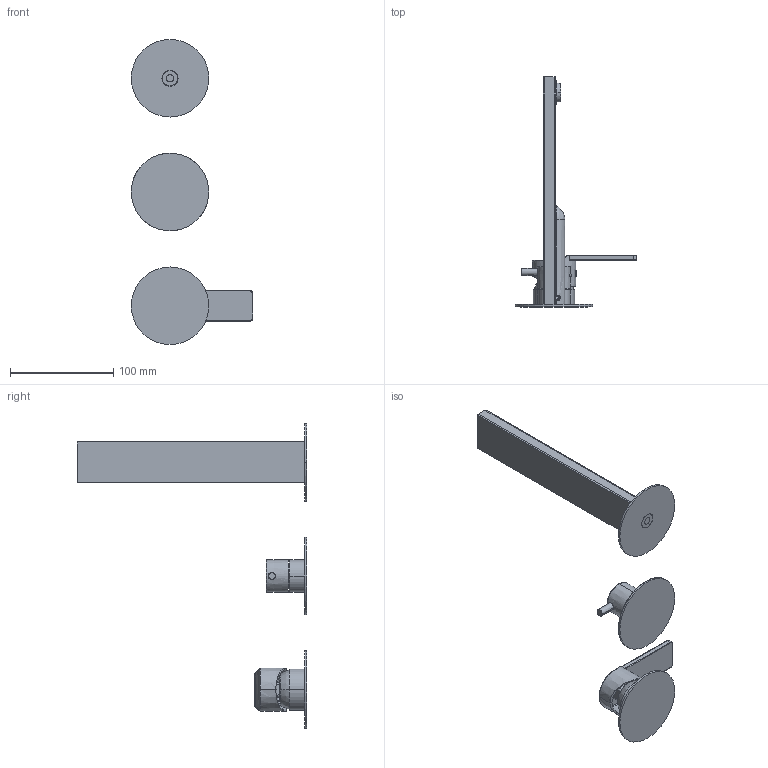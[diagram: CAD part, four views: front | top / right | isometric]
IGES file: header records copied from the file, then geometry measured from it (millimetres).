
Start section:  PTC IGES file: 47558V3.igs
Global section: file name: 47558V3.igs; native system: Creo Parametric by PTC Inc.; preprocessor: 2022014; author: carloff; organization: Unknown; date: 20241216.084610; units: millimetre
Bounding box: 117.5 x 222 x 295 mm (x, y, z)
Surface area: 83615.5 mm2 (no closed solid volume)
Topology: 0 solids, 0 shells, 383 faces, 1983 edges, 1972 vertices
Faces by surface type: revolution 213, bspline 170
